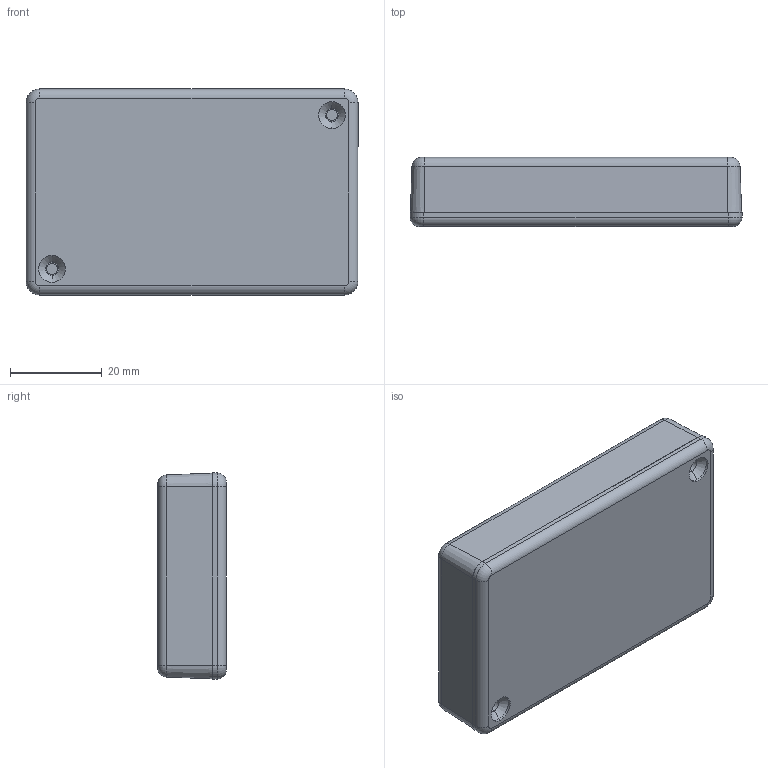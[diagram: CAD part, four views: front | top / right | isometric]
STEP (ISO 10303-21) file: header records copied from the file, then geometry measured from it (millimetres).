
FILE_DESCRIPTION (( 'STEP AP203' ), '1' );
FILE_NAME ('PH013.STEP', '2017-05-29T07:14:30', ( '' ), ( '' ), 'SwSTEP 2.0', 'SolidWorks 2015', '' );
FILE_SCHEMA (( 'CONFIG_CONTROL_DESIGN' ));
Length unit declared in the file: millimetre
Products named in the file (3): PH013
Assembly tree (2 placements, depth 2):
  PH013
    PH013
    PH013
Bounding box: 72.35 x 15 x 44.9 mm (x, y, z)
Volume: 18565.7 mm3; surface area: 20100.9 mm2
Topology: 2 solids, 2 shells, 132 faces, 319 edges, 204 vertices
Faces by surface type: plane 59, cylinder 37, cone 28, torus 8
Entity records: 4180 total; most frequent: DIRECTION 725, CARTESIAN_POINT 660, ORIENTED_EDGE 638, EDGE_CURVE 319, AXIS2_PLACEMENT_3D 269, VERTEX_POINT 204, VECTOR 187, LINE 187
